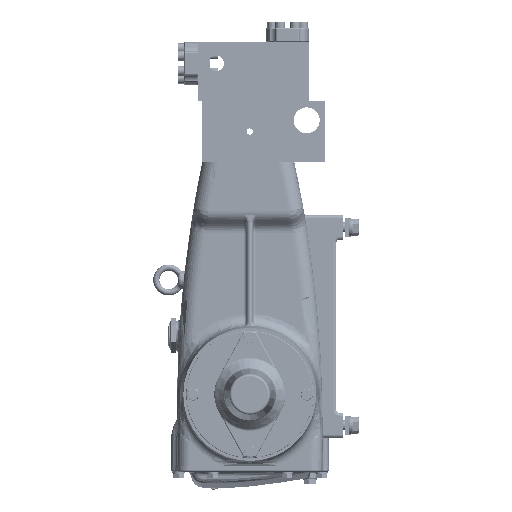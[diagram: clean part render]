
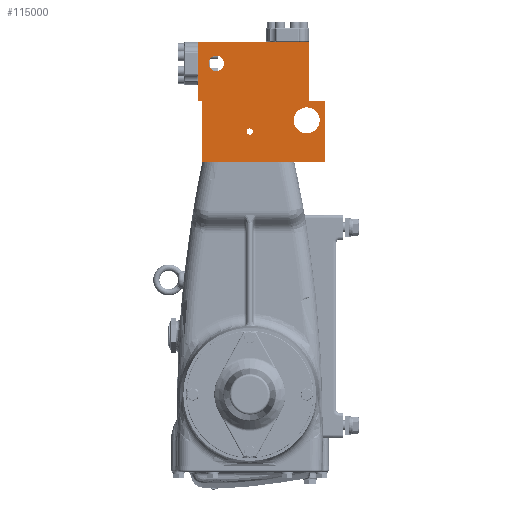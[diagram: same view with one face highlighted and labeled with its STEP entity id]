
A CAD part, left-side view. The second image highlights one B-rep face of the part: STEP entity #115000.
In plain terms, the highlighted planar face has unit normal (-1, 0, 0).
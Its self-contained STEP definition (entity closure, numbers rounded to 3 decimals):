
#27243 = CARTESIAN_POINT ( 'NONE',  ( -152., 54., 172.5 ) ) ;
#28604 = CARTESIAN_POINT ( 'NONE',  ( -152., 54., 147.5 ) ) ;
#45524 = CARTESIAN_POINT ( 'NONE',  ( -152., -92., 89. ) ) ;
#91827 = CARTESIAN_POINT ( 'NONE',  ( -152., -122., 100. ) ) ;
#91880 = CARTESIAN_POINT ( 'NONE',  ( -152., -96., 195. ) ) ;
#91886 = CARTESIAN_POINT ( 'NONE',  ( -152., -92., 47. ) ) ;
#91907 = CARTESIAN_POINT ( 'NONE',  ( -152., -122., 0. ) ) ;
#91990 = CARTESIAN_POINT ( 'NONE',  ( -152., 84., 195. ) ) ;
#92002 = CARTESIAN_POINT ( 'NONE',  ( -152., 84., 100. ) ) ;
#92021 = CARTESIAN_POINT ( 'NONE',  ( -152., -96., 100. ) ) ;
#92032 = CARTESIAN_POINT ( 'NONE',  ( -152., 78., 0. ) ) ;
#92091 = CARTESIAN_POINT ( 'NONE',  ( -152., 78., 100. ) ) ;
#115000 = ADVANCED_FACE ( 'NONE', ( #186179, #186209, #186214, #186218 ), #213731, .F. ) ;
#118690 = VERTEX_POINT ( 'NONE', #161761 ) ;
#118704 = VERTEX_POINT ( 'NONE', #161892 ) ;
#119160 = VERTEX_POINT ( 'NONE', #27243 ) ;
#119384 = VERTEX_POINT ( 'NONE', #28604 ) ;
#119556 = VERTEX_POINT ( 'NONE', #45524 ) ;
#145476 = VERTEX_POINT ( 'NONE', #91827 ) ;
#145509 = VERTEX_POINT ( 'NONE', #91880 ) ;
#145512 = VERTEX_POINT ( 'NONE', #91886 ) ;
#145526 = VERTEX_POINT ( 'NONE', #91907 ) ;
#145599 = VERTEX_POINT ( 'NONE', #91990 ) ;
#145613 = VERTEX_POINT ( 'NONE', #92002 ) ;
#145637 = VERTEX_POINT ( 'NONE', #92021 ) ;
#145651 = VERTEX_POINT ( 'NONE', #92032 ) ;
#145737 = VERTEX_POINT ( 'NONE', #92091 ) ;
#152281 = CIRCLE ( 'NONE', #192347, 12.5 ) ;
#152286 = CIRCLE ( 'NONE', #192497, 5. ) ;
#152287 = CIRCLE ( 'NONE', #192520, 21. ) ;
#152342 = CIRCLE ( 'NONE', #192867, 5. ) ;
#152343 = CIRCLE ( 'NONE', #192852, 21. ) ;
#152344 = CIRCLE ( 'NONE', #192890, 12.5 ) ;
#161761 = CARTESIAN_POINT ( 'NONE',  ( -152., 0., 45. ) ) ;
#161892 = CARTESIAN_POINT ( 'NONE',  ( -152., 0., 55. ) ) ;
#184841 = ORIENTED_EDGE ( 'NONE', *, *, #238010, .T. ) ;
#184843 = ORIENTED_EDGE ( 'NONE', *, *, #238011, .T. ) ;
#184846 = ORIENTED_EDGE ( 'NONE', *, *, #238007, .T. ) ;
#184849 = ORIENTED_EDGE ( 'NONE', *, *, #237899, .T. ) ;
#184852 = ORIENTED_EDGE ( 'NONE', *, *, #238013, .F. ) ;
#184855 = ORIENTED_EDGE ( 'NONE', *, *, #237907, .T. ) ;
#184857 = ORIENTED_EDGE ( 'NONE', *, *, #238012, .F. ) ;
#184860 = ORIENTED_EDGE ( 'NONE', *, *, #238014, .F. ) ;
#184863 = ORIENTED_EDGE ( 'NONE', *, *, #238015, .F. ) ;
#184864 = ORIENTED_EDGE ( 'NONE', *, *, #238016, .T. ) ;
#184865 = ORIENTED_EDGE ( 'NONE', *, *, #238017, .T. ) ;
#184867 = ORIENTED_EDGE ( 'NONE', *, *, #238018, .T. ) ;
#184871 = ORIENTED_EDGE ( 'NONE', *, *, #238019, .T. ) ;
#184875 = ORIENTED_EDGE ( 'NONE', *, *, #237841, .T. ) ;
#186179 = FACE_BOUND ( 'NONE', #228337, .T. ) ;
#186207 = AXIS2_PLACEMENT_3D ( 'NONE', #213732, #213733, #213734 ) ;
#186209 = FACE_BOUND ( 'NONE', #228313, .T. ) ;
#186214 = FACE_OUTER_BOUND ( 'NONE', #228297, .T. ) ;
#186218 = FACE_BOUND ( 'NONE', #228294, .T. ) ;
#192347 = AXIS2_PLACEMENT_3D ( 'NONE', #210391, #210401, #210403 ) ;
#192497 = AXIS2_PLACEMENT_3D ( 'NONE', #211637, #211650, #211651 ) ;
#192520 = AXIS2_PLACEMENT_3D ( 'NONE', #211828, #211838, #211840 ) ;
#192852 = AXIS2_PLACEMENT_3D ( 'NONE', #214667, #214668, #214670 ) ;
#192860 = VECTOR ( 'NONE', #214654, 1000. ) ;
#192867 = AXIS2_PLACEMENT_3D ( 'NONE', #214648, #214664, #214666 ) ;
#192880 = VECTOR ( 'NONE', #214675, 1000. ) ;
#192883 = VECTOR ( 'NONE', #214681, 1000. ) ;
#192887 = VECTOR ( 'NONE', #214687, 1000. ) ;
#192890 = AXIS2_PLACEMENT_3D ( 'NONE', #214671, #214708, #214709 ) ;
#192894 = VECTOR ( 'NONE', #214693, 1000. ) ;
#192900 = VECTOR ( 'NONE', #214699, 1000. ) ;
#192905 = VECTOR ( 'NONE', #214703, 1000. ) ;
#192910 = VECTOR ( 'NONE', #214707, 1000. ) ;
#210391 = CARTESIAN_POINT ( 'NONE',  ( -152., 54., 160. ) ) ;
#210401 = DIRECTION ( 'NONE',  ( 1., 0., 0. ) ) ;
#210403 = DIRECTION ( 'NONE',  ( 0., 0., -1. ) ) ;
#211637 = CARTESIAN_POINT ( 'NONE',  ( -152., 0., 50. ) ) ;
#211650 = DIRECTION ( 'NONE',  ( 1., 0., 0. ) ) ;
#211651 = DIRECTION ( 'NONE',  ( 0., 0., -1. ) ) ;
#211828 = CARTESIAN_POINT ( 'NONE',  ( -152., -92., 68. ) ) ;
#211838 = DIRECTION ( 'NONE',  ( 1., 0., 0. ) ) ;
#211840 = DIRECTION ( 'NONE',  ( 0., 0., -1. ) ) ;
#213731 = PLANE ( 'NONE',  #186207 ) ;
#213732 = CARTESIAN_POINT ( 'NONE',  ( -152., 78., 100. ) ) ;
#213733 = DIRECTION ( 'NONE',  ( 1., 0., 0. ) ) ;
#213734 = DIRECTION ( 'NONE',  ( 0., 1., 0. ) ) ;
#214648 = CARTESIAN_POINT ( 'NONE',  ( -152., 0., 50. ) ) ;
#214650 = LINE ( 'NONE', #214652, #192860 ) ;
#214652 = CARTESIAN_POINT ( 'NONE',  ( -152., 78., 0. ) ) ;
#214654 = DIRECTION ( 'NONE',  ( 0., -1., 0. ) ) ;
#214664 = DIRECTION ( 'NONE',  ( 1., 0., 0. ) ) ;
#214666 = DIRECTION ( 'NONE',  ( 0., 0., -1. ) ) ;
#214667 = CARTESIAN_POINT ( 'NONE',  ( -152., -92., 68. ) ) ;
#214668 = DIRECTION ( 'NONE',  ( 1., 0., 0. ) ) ;
#214670 = DIRECTION ( 'NONE',  ( 0., 0., -1. ) ) ;
#214671 = CARTESIAN_POINT ( 'NONE',  ( -152., 54., 160. ) ) ;
#214672 = LINE ( 'NONE', #214673, #192880 ) ;
#214673 = CARTESIAN_POINT ( 'NONE',  ( -152., -122., 100. ) ) ;
#214675 = DIRECTION ( 'NONE',  ( 0., 0., -1. ) ) ;
#214677 = LINE ( 'NONE', #214679, #192883 ) ;
#214679 = CARTESIAN_POINT ( 'NONE',  ( -152., 78., 100. ) ) ;
#214681 = DIRECTION ( 'NONE',  ( 0., -1., 0. ) ) ;
#214683 = LINE ( 'NONE', #214685, #192887 ) ;
#214685 = CARTESIAN_POINT ( 'NONE',  ( -152., -96., 195. ) ) ;
#214687 = DIRECTION ( 'NONE',  ( 0., 0., -1. ) ) ;
#214689 = LINE ( 'NONE', #214691, #192894 ) ;
#214691 = CARTESIAN_POINT ( 'NONE',  ( -152., 84., 195. ) ) ;
#214693 = DIRECTION ( 'NONE',  ( 0., -1., 0. ) ) ;
#214695 = LINE ( 'NONE', #214697, #192900 ) ;
#214697 = CARTESIAN_POINT ( 'NONE',  ( -152., 84., 195. ) ) ;
#214699 = DIRECTION ( 'NONE',  ( 0., 0., -1. ) ) ;
#214700 = LINE ( 'NONE', #214701, #192905 ) ;
#214701 = CARTESIAN_POINT ( 'NONE',  ( -152., 84., 100. ) ) ;
#214703 = DIRECTION ( 'NONE',  ( 0., -1., 0. ) ) ;
#214704 = LINE ( 'NONE', #214705, #192910 ) ;
#214705 = CARTESIAN_POINT ( 'NONE',  ( -152., 78., 100. ) ) ;
#214707 = DIRECTION ( 'NONE',  ( 0., 0., -1. ) ) ;
#214708 = DIRECTION ( 'NONE',  ( 1., 0., 0. ) ) ;
#214709 = DIRECTION ( 'NONE',  ( 0., 0., -1. ) ) ;
#228294 = EDGE_LOOP ( 'NONE', ( #184871, #184875 ) ) ;
#228297 = EDGE_LOOP ( 'NONE', ( #184846, #184857, #184852, #184860, #184863, #184864, #184865, #184867 ) ) ;
#228313 = EDGE_LOOP ( 'NONE', ( #184843, #184855 ) ) ;
#228337 = EDGE_LOOP ( 'NONE', ( #184841, #184849 ) ) ;
#237841 = EDGE_CURVE ( 'NONE', #119160, #119384, #152281, .T. ) ;
#237899 = EDGE_CURVE ( 'NONE', #118704, #118690, #152286, .T. ) ;
#237907 = EDGE_CURVE ( 'NONE', #119556, #145512, #152287, .T. ) ;
#238007 = EDGE_CURVE ( 'NONE', #145651, #145526, #214650, .T. ) ;
#238010 = EDGE_CURVE ( 'NONE', #118690, #118704, #152342, .T. ) ;
#238011 = EDGE_CURVE ( 'NONE', #145512, #119556, #152343, .T. ) ;
#238012 = EDGE_CURVE ( 'NONE', #145476, #145526, #214672, .T. ) ;
#238013 = EDGE_CURVE ( 'NONE', #145637, #145476, #214677, .T. ) ;
#238014 = EDGE_CURVE ( 'NONE', #145509, #145637, #214683, .T. ) ;
#238015 = EDGE_CURVE ( 'NONE', #145599, #145509, #214689, .T. ) ;
#238016 = EDGE_CURVE ( 'NONE', #145599, #145613, #214695, .T. ) ;
#238017 = EDGE_CURVE ( 'NONE', #145613, #145737, #214700, .T. ) ;
#238018 = EDGE_CURVE ( 'NONE', #145737, #145651, #214704, .T. ) ;
#238019 = EDGE_CURVE ( 'NONE', #119384, #119160, #152344, .T. ) ;
